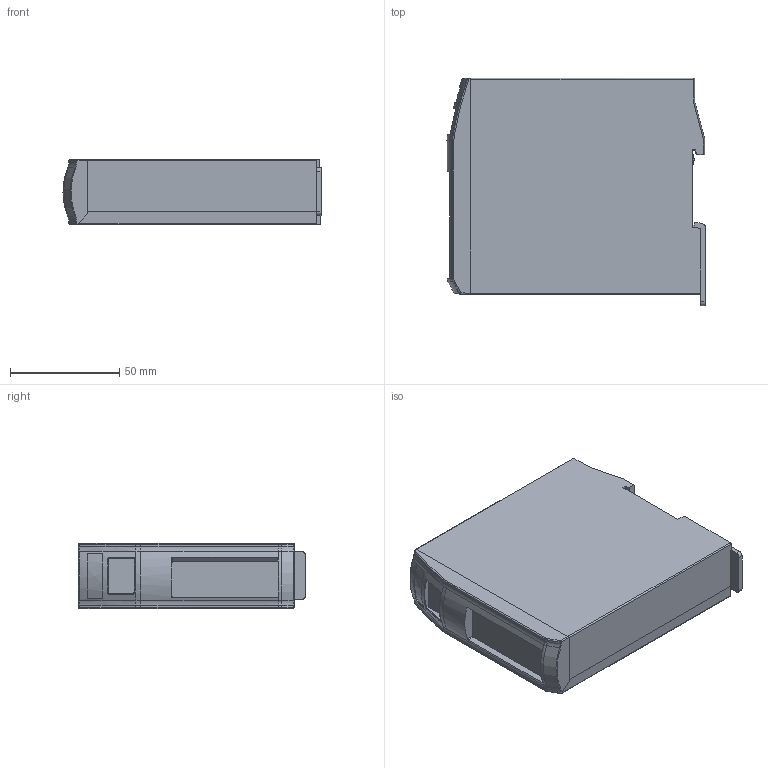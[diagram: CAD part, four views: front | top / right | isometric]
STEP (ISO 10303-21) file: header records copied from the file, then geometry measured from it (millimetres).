
FILE_DESCRIPTION (( 'STEP AP203' ), '1' );
FILE_NAME ('bus module - cc - 03.STEP', '2017-02-05T12:09:05', ( '' ), ( '' ), 'SwSTEP 2.0', 'SolidWorks 2016', '' );
FILE_SCHEMA (( 'CONFIG_CONTROL_DESIGN' ));
Length unit declared in the file: millimetre
Products named in the file (1): bus module - cc - 03
Bounding box: 118.26 x 104.16 x 29.98 mm (x, y, z)
Volume: 330943.6 mm3; surface area: 35865.5 mm2
Topology: 1 solids, 1 shells, 165 faces, 418 edges, 258 vertices
Faces by surface type: plane 89, bspline 37, cylinder 35, cone 4
Entity records: 11760 total; most frequent: CARTESIAN_POINT 8208, ORIENTED_EDGE 836, DIRECTION 534, EDGE_CURVE 418, VERTEX_POINT 258, LINE 224, VECTOR 224, EDGE_LOOP 168
